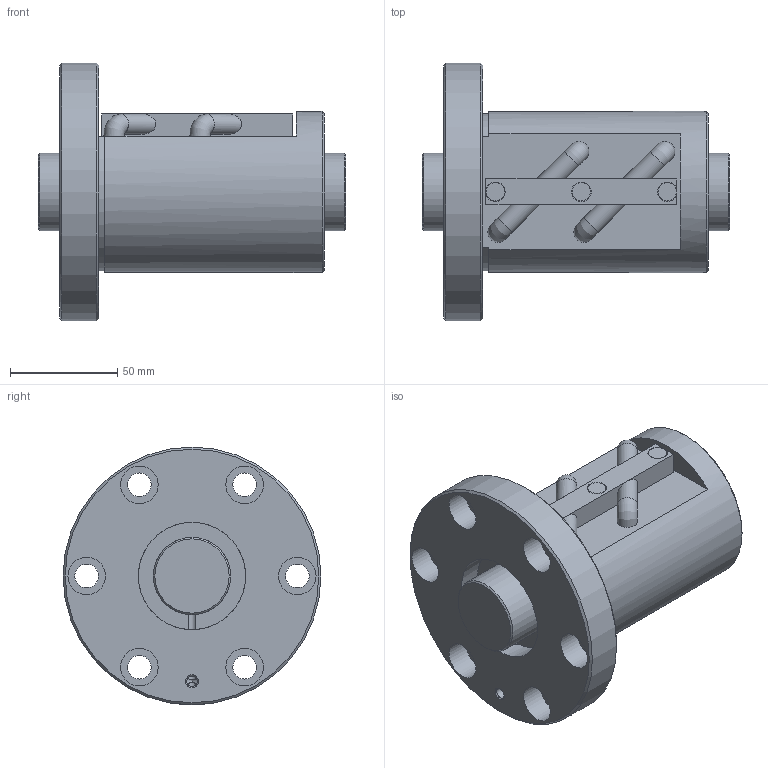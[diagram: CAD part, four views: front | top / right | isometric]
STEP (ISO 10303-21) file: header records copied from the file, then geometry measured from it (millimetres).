
FILE_DESCRIPTION(/* description */ ('STEP AP203'),/* implementation_level */ '2;1');
FILE_NAME(/* name */ 'BIF3610V-7RRG0+143LC0_000',/* time_stamp */ '2024-07-15T08:23:42+02:00',/* author */ ('License CC BY-ND 4.0'),/* organization */ ('CADENAS'),/* preprocessor_version */ 'ST-DEVELOPER v19.3',/* originating_system */ 'PARTsolutions',/* authorisation */ ' ');
FILE_SCHEMA (('CONFIG_CONTROL_DESIGN'));
Length unit declared in the file: millimetre
Products named in the file (3): BIF3610V-7RRG0+143LC0_000; BIF3610V-7RR000 Shaft; BIF3610V-7RR Nut
Assembly tree (2 placements, depth 2):
  BIF3610V-7RRG0+143LC0_000
    BIF3610V-7RR000 Shaft
    BIF3610V-7RR Nut
Bounding box: 143 x 120 x 120 mm (x, y, z)
Volume: 624253 mm3; surface area: 94332.9 mm2
Topology: 2 solids, 2 shells, 89 faces, 214 edges, 136 vertices
Faces by surface type: plane 41, cylinder 37, cone 7, torus 4
Full cylindrical faces by diameter (mm): 4 x3, 4.917 x1, 8.5 x3, 9.1 x1, 9.5 x4, 11 x6, 17.5 x6, 36 x2, 50 x2, 75 x1, 120 x1
Entity records: 2486 total; most frequent: CARTESIAN_POINT 493, DIRECTION 432, ORIENTED_EDGE 314, AXIS2_PLACEMENT_3D 194, FACE_BOUND 161, EDGE_LOOP 160, EDGE_CURVE 157, VERTEX_POINT 120
